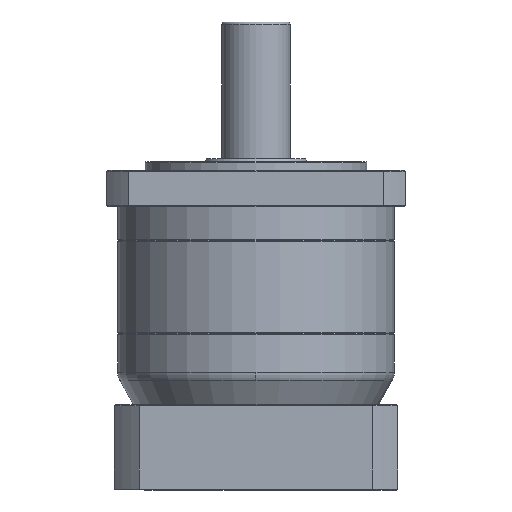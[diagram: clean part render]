
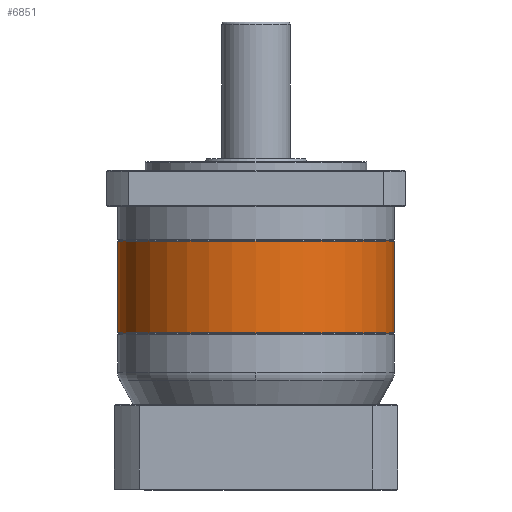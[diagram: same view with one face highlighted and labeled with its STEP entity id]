
A CAD part, front view. The second image highlights one B-rep face of the part: STEP entity #6851.
In plain terms, the highlighted cylindrical face has radius 81 mm (diameter 162 mm), a partial arc.
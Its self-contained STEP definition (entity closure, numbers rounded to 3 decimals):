
#590 = ORIENTED_EDGE ( 'NONE', *, *, #99715, .F. ) ;
#779 = VERTEX_POINT ( 'NONE', #20750 ) ;
#3024 = CARTESIAN_POINT ( 'NONE',  ( 179.732, 48.034, 35.985 ) ) ;
#3113 = LINE ( 'NONE', #33766, #44178 ) ;
#4350 = AXIS2_PLACEMENT_3D ( 'NONE', #33087, #78259, #64982 ) ;
#4855 = CARTESIAN_POINT ( 'NONE',  ( 179.732, 48.034, 89.485 ) ) ;
#5925 = LINE ( 'NONE', #23106, #74684 ) ;
#6024 = VERTEX_POINT ( 'NONE', #48496 ) ;
#6851 = ADVANCED_FACE ( 'NONE', ( #16906 ), #89384, .T. ) ;
#6882 = EDGE_CURVE ( 'NONE', #779, #6024, #53160, .T. ) ;
#13915 = DIRECTION ( 'NONE',  ( 0., 0., -1. ) ) ;
#14041 = AXIS2_PLACEMENT_3D ( 'NONE', #4855, #13915, #35905 ) ;
#16906 = FACE_OUTER_BOUND ( 'NONE', #97144, .T. ) ;
#18823 = DIRECTION ( 'NONE',  ( 0., 1., 0. ) ) ;
#20750 = CARTESIAN_POINT ( 'NONE',  ( 179.732, -32.966, 35.985 ) ) ;
#23106 = CARTESIAN_POINT ( 'NONE',  ( 98.732, 48.034, 35.485 ) ) ;
#26292 = DIRECTION ( 'NONE',  ( 0., 0., -1. ) ) ;
#28283 = EDGE_CURVE ( 'NONE', #6024, #65044, #5925, .T. ) ;
#29176 = EDGE_CURVE ( 'NONE', #38416, #34547, #3113, .T. ) ;
#30352 = CIRCLE ( 'NONE', #50881, 81. ) ;
#33087 = CARTESIAN_POINT ( 'NONE',  ( 179.732, 48.034, 35.485 ) ) ;
#33766 = CARTESIAN_POINT ( 'NONE',  ( 260.732, 48.034, 35.485 ) ) ;
#34547 = VERTEX_POINT ( 'NONE', #46094 ) ;
#35372 = AXIS2_PLACEMENT_3D ( 'NONE', #3024, #26292, #18823 ) ;
#35905 = DIRECTION ( 'NONE',  ( 1., 0., 0. ) ) ;
#38416 = VERTEX_POINT ( 'NONE', #79351 ) ;
#44178 = VECTOR ( 'NONE', #87740, 1000. ) ;
#45355 = CARTESIAN_POINT ( 'NONE',  ( 179.732, 48.034, 35.985 ) ) ;
#46094 = CARTESIAN_POINT ( 'NONE',  ( 260.732, 48.034, 89.485 ) ) ;
#48496 = CARTESIAN_POINT ( 'NONE',  ( 98.732, 48.034, 35.985 ) ) ;
#48689 = ORIENTED_EDGE ( 'NONE', *, *, #29176, .T. ) ;
#50881 = AXIS2_PLACEMENT_3D ( 'NONE', #45355, #61163, #75682 ) ;
#52579 = CARTESIAN_POINT ( 'NONE',  ( 98.732, 48.034, 89.485 ) ) ;
#53160 = CIRCLE ( 'NONE', #35372, 81. ) ;
#54305 = CIRCLE ( 'NONE', #14041, 81. ) ;
#61163 = DIRECTION ( 'NONE',  ( 0., 0., -1. ) ) ;
#64982 = DIRECTION ( 'NONE',  ( 1., 0., 0. ) ) ;
#65044 = VERTEX_POINT ( 'NONE', #52579 ) ;
#73000 = ORIENTED_EDGE ( 'NONE', *, *, #94607, .T. ) ;
#74684 = VECTOR ( 'NONE', #77350, 1000. ) ;
#75682 = DIRECTION ( 'NONE',  ( 0., 1., 0. ) ) ;
#77350 = DIRECTION ( 'NONE',  ( 0., 0., 1. ) ) ;
#78259 = DIRECTION ( 'NONE',  ( 0., 0., 1. ) ) ;
#79351 = CARTESIAN_POINT ( 'NONE',  ( 260.732, 48.034, 35.985 ) ) ;
#84353 = ORIENTED_EDGE ( 'NONE', *, *, #28283, .F. ) ;
#87740 = DIRECTION ( 'NONE',  ( 0., 0., 1. ) ) ;
#89384 = CYLINDRICAL_SURFACE ( 'NONE', #4350, 81. ) ;
#91498 = ORIENTED_EDGE ( 'NONE', *, *, #6882, .F. ) ;
#94607 = EDGE_CURVE ( 'NONE', #34547, #65044, #54305, .T. ) ;
#97144 = EDGE_LOOP ( 'NONE', ( #84353, #91498, #590, #48689, #73000 ) ) ;
#99715 = EDGE_CURVE ( 'NONE', #38416, #779, #30352, .T. ) ;
